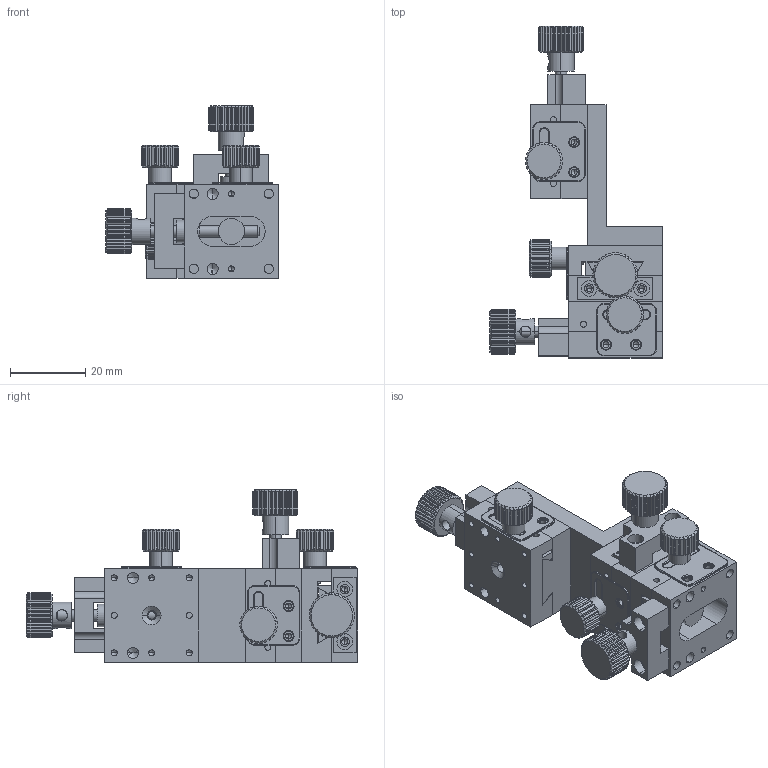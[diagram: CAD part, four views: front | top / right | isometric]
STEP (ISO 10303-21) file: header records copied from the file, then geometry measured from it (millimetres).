
FILE_DESCRIPTION (( 'STEP AP203' ), '1' );
FILE_NAME ('FA-JD425S.STEP', '2019-01-31T04:50:09', ( 'Windows 餌辨濠' ), ( '' ), 'SwSTEP 2.0', 'SolidWorks 2018', '' );
FILE_SCHEMA (( 'CONFIG_CONTROL_DESIGN' ));
Length unit declared in the file: millimetre
Products named in the file (19): FB-JD25-BD-01; FB-JD25-R-BD-03; FA-JD225S; FB-JD25-NTB-01; FB-JD25-R-SC-01; FB-JD25-R-SH-01; FB-JD25-SC-01; FB-JD25-R-BK-C-01; FB-JD25-R-NTB-01; FB-JD25S-BK-Z-01; FB-JD25-SH-01; FA-JD425S; FA-JD1-25S; FB-JD25-R-BD-01; FB-JD25-BK-C-01; FA-JD1-25S-R; FB-JD25-BD-03; FC-PL-14X16; FC-NB-10
Assembly tree (21 placements, depth 4):
  FA-JD425S
    FB-JD25S-BK-Z-01
    FA-JD1-25S
      FB-JD25-BD-03
      FB-JD25-BD-01
      FB-JD25-SC-01
      FB-JD25-BK-C-01
      FB-JD25-NTB-01
      FB-JD25-SH-01
      FC-PL-14X16
      FC-NB-10
    FA-JD225S
      FA-JD1-25S-R
        FB-JD25-R-BD-03
        FB-JD25-R-BD-01
        FB-JD25-R-SC-01
        FB-JD25-R-BK-C-01
        FB-JD25-R-NTB-01
        FB-JD25-R-SH-01
        FC-PL-14X16
        FC-NB-10
      FA-JD1-25S
        FB-JD25-BD-03
        FB-JD25-BD-01
        FB-JD25-SC-01
        FB-JD25-BK-C-01
        FB-JD25-NTB-01
        FB-JD25-SH-01
        FC-PL-14X16
        FC-NB-10
Bounding box: 46 x 88.5 x 46 mm (x, y, z)
Volume: 36707.5 mm3; surface area: 31156.8 mm2
Topology: 25 solids, 25 shells, 1394 faces, 3715 edges, 2334 vertices
Faces by surface type: cylinder 600, plane 587, cone 174, torus 33
Entity records: 28364 total; most frequent: CARTESIAN_POINT 6361, ORIENTED_EDGE 4196, DIRECTION 4077, EDGE_CURVE 2098, AXIS2_PLACEMENT_3D 1580, VERTEX_POINT 1364, EDGE_LOOP 972, VECTOR 917
